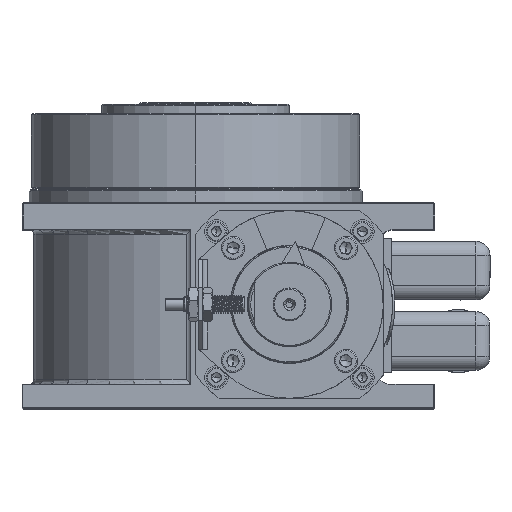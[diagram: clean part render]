
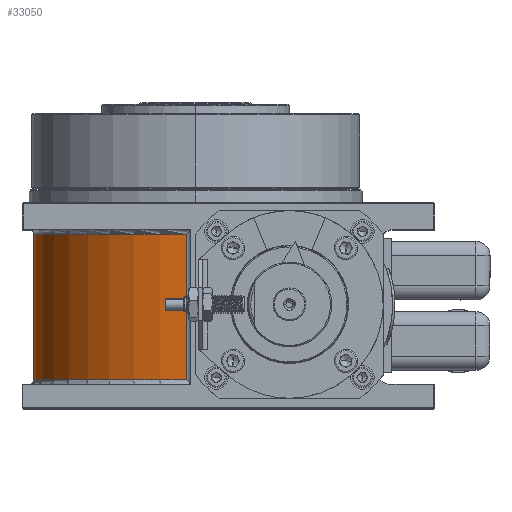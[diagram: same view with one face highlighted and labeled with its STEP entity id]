
A CAD part, top view. The second image highlights one B-rep face of the part: STEP entity #33050.
In plain terms, the highlighted cylindrical face has radius 69 mm (diameter 138 mm), a partial arc.
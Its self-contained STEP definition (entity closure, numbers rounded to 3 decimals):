
#395 = CARTESIAN_POINT ( 'NONE',  ( -42.511, 10.762, -28.281 ) ) ;
#1733 = CARTESIAN_POINT ( 'NONE',  ( -42.511, -53.238, -28.281 ) ) ;
#1881 = DIRECTION ( 'NONE',  ( 0., 0., 1. ) ) ;
#4187 = CARTESIAN_POINT ( 'NONE',  ( -42.511, 8.762, -28.281 ) ) ;
#4490 = DIRECTION ( 'NONE',  ( 0., 1., 0. ) ) ;
#4789 = AXIS2_PLACEMENT_3D ( 'NONE', #9783, #6093, #21102 ) ;
#5725 = EDGE_CURVE ( 'NONE', #45494, #11276, #10070, .T. ) ;
#5855 = FACE_OUTER_BOUND ( 'NONE', #17388, .T. ) ;
#6093 = DIRECTION ( 'NONE',  ( 0., -1., 0. ) ) ;
#6633 = ORIENTED_EDGE ( 'NONE', *, *, #41815, .T. ) ;
#7110 = VERTEX_POINT ( 'NONE', #1733 ) ;
#8431 = AXIS2_PLACEMENT_3D ( 'NONE', #30305, #4490, #19452 ) ;
#8677 = CIRCLE ( 'NONE', #13429, 69. ) ;
#8971 = EDGE_CURVE ( 'NONE', #11276, #42950, #8677, .T. ) ;
#9783 = CARTESIAN_POINT ( 'NONE',  ( -38.624, 10.762, 40.609 ) ) ;
#10036 = CYLINDRICAL_SURFACE ( 'NONE', #4789, 69. ) ;
#10070 = LINE ( 'NONE', #25043, #23299 ) ;
#10881 = CARTESIAN_POINT ( 'NONE',  ( -42.511, -53.238, 109.5 ) ) ;
#11276 = VERTEX_POINT ( 'NONE', #29152 ) ;
#13429 = AXIS2_PLACEMENT_3D ( 'NONE', #17112, #32164, #1881 ) ;
#17112 = CARTESIAN_POINT ( 'NONE',  ( -38.624, 8.762, 40.609 ) ) ;
#17388 = EDGE_LOOP ( 'NONE', ( #6633, #27350, #33513, #31708 ) ) ;
#17679 = DIRECTION ( 'NONE',  ( 0., 1., 0. ) ) ;
#19452 = DIRECTION ( 'NONE',  ( 0., 0., 1. ) ) ;
#21102 = DIRECTION ( 'NONE',  ( 0., 0., -1. ) ) ;
#21241 = EDGE_CURVE ( 'NONE', #42950, #7110, #26932, .T. ) ;
#23247 = DIRECTION ( 'NONE',  ( 0., -1., 0. ) ) ;
#23299 = VECTOR ( 'NONE', #17679, 1000. ) ;
#25043 = CARTESIAN_POINT ( 'NONE',  ( -42.511, 10.762, 109.5 ) ) ;
#26932 = LINE ( 'NONE', #395, #28539 ) ;
#27350 = ORIENTED_EDGE ( 'NONE', *, *, #5725, .T. ) ;
#28539 = VECTOR ( 'NONE', #23247, 1000. ) ;
#28878 = CIRCLE ( 'NONE', #8431, 69. ) ;
#29152 = CARTESIAN_POINT ( 'NONE',  ( -42.511, 8.762, 109.5 ) ) ;
#30305 = CARTESIAN_POINT ( 'NONE',  ( -38.624, -53.238, 40.609 ) ) ;
#31708 = ORIENTED_EDGE ( 'NONE', *, *, #21241, .T. ) ;
#32164 = DIRECTION ( 'NONE',  ( 0., -1., 0. ) ) ;
#33050 = ADVANCED_FACE ( 'NONE', ( #5855 ), #10036, .T. ) ;
#33513 = ORIENTED_EDGE ( 'NONE', *, *, #8971, .T. ) ;
#41815 = EDGE_CURVE ( 'NONE', #7110, #45494, #28878, .T. ) ;
#42950 = VERTEX_POINT ( 'NONE', #4187 ) ;
#45494 = VERTEX_POINT ( 'NONE', #10881 ) ;
